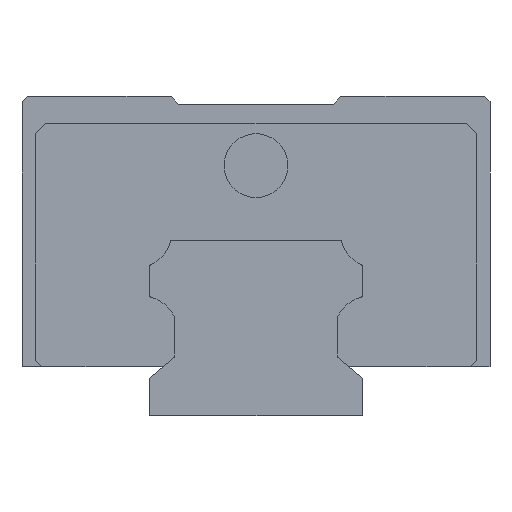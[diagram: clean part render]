
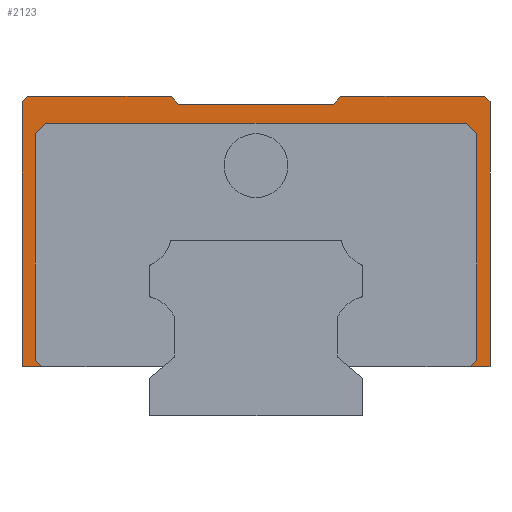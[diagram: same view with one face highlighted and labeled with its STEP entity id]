
A CAD part, left-side view. The second image highlights one B-rep face of the part: STEP entity #2123.
In plain terms, the highlighted planar face has unit normal (-1, 0, 0).
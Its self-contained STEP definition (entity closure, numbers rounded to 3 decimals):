
#42 = EDGE_CURVE ( 'NONE', #2773, #3110, #2196, .T. ) ;
#84 = VECTOR ( 'NONE', #212, 1000. ) ;
#132 = CARTESIAN_POINT ( 'NONE',  ( -27., 21.5, 30. ) ) ;
#161 = ORIENTED_EDGE ( 'NONE', *, *, #2718, .F. ) ;
#195 = DIRECTION ( 'NONE',  ( 0., 0.707, -0.707 ) ) ;
#200 = VECTOR ( 'NONE', #1598, 1000. ) ;
#212 = DIRECTION ( 'NONE',  ( 0., -0.707, 0.707 ) ) ;
#234 = ORIENTED_EDGE ( 'NONE', *, *, #2819, .F. ) ;
#236 = DIRECTION ( 'NONE',  ( 0., 0.643, -0.766 ) ) ;
#265 = VECTOR ( 'NONE', #1195, 1000. ) ;
#364 = CARTESIAN_POINT ( 'NONE',  ( -27., -20.75, 5.2 ) ) ;
#622 = CARTESIAN_POINT ( 'NONE',  ( -27., 7.963, 30. ) ) ;
#685 = CARTESIAN_POINT ( 'NONE',  ( -27., -20.75, 30. ) ) ;
#686 = EDGE_CURVE ( 'NONE', #2773, #4057, #6058, .T. ) ;
#693 = CARTESIAN_POINT ( 'NONE',  ( -27., -7.333, 29.25 ) ) ;
#804 = DIRECTION ( 'NONE',  ( 0., 0., 1. ) ) ;
#825 = LINE ( 'NONE', #3666, #1969 ) ;
#996 = EDGE_CURVE ( 'NONE', #5457, #2976, #4481, .T. ) ;
#999 = ORIENTED_EDGE ( 'NONE', *, *, #686, .T. ) ;
#1031 = DIRECTION ( 'NONE',  ( 0., 1., 0. ) ) ;
#1069 = VERTEX_POINT ( 'NONE', #2039 ) ;
#1118 = LINE ( 'NONE', #3979, #84 ) ;
#1120 = DIRECTION ( 'NONE',  ( 0., -1., 0. ) ) ;
#1143 = EDGE_CURVE ( 'NONE', #4192, #2976, #1496, .T. ) ;
#1190 = EDGE_CURVE ( 'NONE', #5284, #3688, #5358, .T. ) ;
#1195 = DIRECTION ( 'NONE',  ( 0., 0., 1. ) ) ;
#1241 = ORIENTED_EDGE ( 'NONE', *, *, #42, .F. ) ;
#1363 = VERTEX_POINT ( 'NONE', #364 ) ;
#1496 = LINE ( 'NONE', #132, #5829 ) ;
#1506 = ORIENTED_EDGE ( 'NONE', *, *, #2298, .F. ) ;
#1521 = ORIENTED_EDGE ( 'NONE', *, *, #1639, .F. ) ;
#1543 = EDGE_LOOP ( 'NONE', ( #3613, #2033, #161, #1521, #3008, #1708, #4772, #4230, #1241, #999, #1506, #6094, #2372, #6097, #1685, #5062, #5193, #234 ) ) ;
#1551 = LINE ( 'NONE', #693, #4624 ) ;
#1580 = CARTESIAN_POINT ( 'NONE',  ( -27., 19.75, 27.5 ) ) ;
#1598 = DIRECTION ( 'NONE',  ( 0., -0.707, -0.707 ) ) ;
#1639 = EDGE_CURVE ( 'NONE', #3091, #4480, #2764, .T. ) ;
#1685 = ORIENTED_EDGE ( 'NONE', *, *, #1895, .F. ) ;
#1708 = ORIENTED_EDGE ( 'NONE', *, *, #2013, .F. ) ;
#1717 = LINE ( 'NONE', #5536, #5718 ) ;
#1798 = CARTESIAN_POINT ( 'NONE',  ( -27., 20.75, 26.5 ) ) ;
#1806 = DIRECTION ( 'NONE',  ( 0., 0.707, 0.707 ) ) ;
#1858 = DIRECTION ( 'NONE',  ( 0., 1., 0. ) ) ;
#1895 = EDGE_CURVE ( 'NONE', #4192, #3688, #5356, .T. ) ;
#1969 = VECTOR ( 'NONE', #1806, 1000. ) ;
#2001 = DIRECTION ( 'NONE',  ( 0., 1., 0. ) ) ;
#2013 = EDGE_CURVE ( 'NONE', #1363, #1069, #2717, .T. ) ;
#2033 = ORIENTED_EDGE ( 'NONE', *, *, #3765, .F. ) ;
#2039 = CARTESIAN_POINT ( 'NONE',  ( -27., -20.75, 26.5 ) ) ;
#2104 = CARTESIAN_POINT ( 'NONE',  ( -27., -7.333, 29.25 ) ) ;
#2123 = ADVANCED_FACE ( 'NONE', ( #4723 ), #2391, .F. ) ;
#2130 = EDGE_CURVE ( 'NONE', #3110, #3021, #2436, .T. ) ;
#2148 = CARTESIAN_POINT ( 'NONE',  ( -27., 22., 29.5 ) ) ;
#2196 = LINE ( 'NONE', #3648, #4234 ) ;
#2242 = CARTESIAN_POINT ( 'NONE',  ( -27., -22., 4.6 ) ) ;
#2254 = VECTOR ( 'NONE', #4081, 1000. ) ;
#2298 = EDGE_CURVE ( 'NONE', #5923, #4057, #4482, .T. ) ;
#2327 = VERTEX_POINT ( 'NONE', #3081 ) ;
#2372 = ORIENTED_EDGE ( 'NONE', *, *, #4781, .T. ) ;
#2383 = VECTOR ( 'NONE', #2001, 1000. ) ;
#2391 = PLANE ( 'NONE',  #3450 ) ;
#2436 = LINE ( 'NONE', #4455, #2383 ) ;
#2491 = VECTOR ( 'NONE', #195, 1000. ) ;
#2545 = DIRECTION ( 'NONE',  ( 0., 0., -1. ) ) ;
#2658 = VECTOR ( 'NONE', #1858, 1000. ) ;
#2717 = LINE ( 'NONE', #685, #4937 ) ;
#2718 = EDGE_CURVE ( 'NONE', #4480, #2771, #4959, .T. ) ;
#2728 = CARTESIAN_POINT ( 'NONE',  ( -27., -22., 27.5 ) ) ;
#2756 = CARTESIAN_POINT ( 'NONE',  ( -27., 20.15, 4.6 ) ) ;
#2764 = LINE ( 'NONE', #2728, #2658 ) ;
#2771 = VERTEX_POINT ( 'NONE', #1798 ) ;
#2773 = VERTEX_POINT ( 'NONE', #3251 ) ;
#2797 = DIRECTION ( 'NONE',  ( 0., 1., 0. ) ) ;
#2819 = EDGE_CURVE ( 'NONE', #4938, #5457, #3746, .T. ) ;
#2898 = EDGE_CURVE ( 'NONE', #2327, #4938, #5436, .T. ) ;
#2976 = VERTEX_POINT ( 'NONE', #2148 ) ;
#2998 = LINE ( 'NONE', #4885, #5307 ) ;
#3008 = ORIENTED_EDGE ( 'NONE', *, *, #5301, .F. ) ;
#3021 = VERTEX_POINT ( 'NONE', #5618 ) ;
#3059 = CARTESIAN_POINT ( 'NONE',  ( -27., -7.963, 30. ) ) ;
#3067 = CARTESIAN_POINT ( 'NONE',  ( -27., 22., 4.6 ) ) ;
#3077 = CARTESIAN_POINT ( 'NONE',  ( -27., -21.5, 30. ) ) ;
#3081 = CARTESIAN_POINT ( 'NONE',  ( -27., 20.75, 5.2 ) ) ;
#3091 = VERTEX_POINT ( 'NONE', #5979 ) ;
#3110 = VERTEX_POINT ( 'NONE', #2242 ) ;
#3172 = CARTESIAN_POINT ( 'NONE',  ( -27., 22., 30. ) ) ;
#3193 = CARTESIAN_POINT ( 'NONE',  ( -27., 7.333, 29.25 ) ) ;
#3213 = CARTESIAN_POINT ( 'NONE',  ( -27., 9., 4.6 ) ) ;
#3214 = CARTESIAN_POINT ( 'NONE',  ( -27., 21.5, 30. ) ) ;
#3227 = CARTESIAN_POINT ( 'NONE',  ( -27., -22., 29.5 ) ) ;
#3251 = CARTESIAN_POINT ( 'NONE',  ( -27., -22., 29.5 ) ) ;
#3450 = AXIS2_PLACEMENT_3D ( 'NONE', #4273, #5124, #5157 ) ;
#3550 = VECTOR ( 'NONE', #5525, 1000. ) ;
#3613 = ORIENTED_EDGE ( 'NONE', *, *, #2898, .F. ) ;
#3648 = CARTESIAN_POINT ( 'NONE',  ( -27., -22., 28. ) ) ;
#3666 = CARTESIAN_POINT ( 'NONE',  ( -27., -19.625, 27.625 ) ) ;
#3688 = VERTEX_POINT ( 'NONE', #622 ) ;
#3746 = LINE ( 'NONE', #3213, #5031 ) ;
#3765 = EDGE_CURVE ( 'NONE', #2771, #2327, #2998, .T. ) ;
#3920 = DIRECTION ( 'NONE',  ( 0., 0.707, -0.707 ) ) ;
#3979 = CARTESIAN_POINT ( 'NONE',  ( -27., -33.775, 18.225 ) ) ;
#4037 = CARTESIAN_POINT ( 'NONE',  ( -27., 11.775, -3.775 ) ) ;
#4040 = VECTOR ( 'NONE', #5084, 1000. ) ;
#4057 = VERTEX_POINT ( 'NONE', #3077 ) ;
#4067 = CARTESIAN_POINT ( 'NONE',  ( -27., 22., 30. ) ) ;
#4081 = DIRECTION ( 'NONE',  ( 0., 0.643, 0.766 ) ) ;
#4192 = VERTEX_POINT ( 'NONE', #3214 ) ;
#4230 = ORIENTED_EDGE ( 'NONE', *, *, #2130, .F. ) ;
#4234 = VECTOR ( 'NONE', #4548, 1000. ) ;
#4273 = CARTESIAN_POINT ( 'NONE',  ( -27., -22., 30. ) ) ;
#4443 = CARTESIAN_POINT ( 'NONE',  ( -27., -2.375, 49.625 ) ) ;
#4455 = CARTESIAN_POINT ( 'NONE',  ( -27., -22., 4.6 ) ) ;
#4480 = VERTEX_POINT ( 'NONE', #1580 ) ;
#4481 = LINE ( 'NONE', #5342, #265 ) ;
#4482 = LINE ( 'NONE', #4067, #3550 ) ;
#4532 = EDGE_CURVE ( 'NONE', #3021, #1363, #1118, .T. ) ;
#4548 = DIRECTION ( 'NONE',  ( 0., 0., -1. ) ) ;
#4574 = VERTEX_POINT ( 'NONE', #2104 ) ;
#4624 = VECTOR ( 'NONE', #1031, 1000. ) ;
#4723 = FACE_OUTER_BOUND ( 'NONE', #1543, .T. ) ;
#4772 = ORIENTED_EDGE ( 'NONE', *, *, #4532, .F. ) ;
#4781 = EDGE_CURVE ( 'NONE', #4574, #5284, #1551, .T. ) ;
#4833 = VECTOR ( 'NONE', #1120, 1000. ) ;
#4885 = CARTESIAN_POINT ( 'NONE',  ( -27., 20.75, 30. ) ) ;
#4937 = VECTOR ( 'NONE', #804, 1000. ) ;
#4938 = VERTEX_POINT ( 'NONE', #2756 ) ;
#4959 = LINE ( 'NONE', #4443, #2491 ) ;
#5031 = VECTOR ( 'NONE', #2797, 1000. ) ;
#5062 = ORIENTED_EDGE ( 'NONE', *, *, #1143, .T. ) ;
#5084 = DIRECTION ( 'NONE',  ( 0., 0.707, 0.707 ) ) ;
#5124 = DIRECTION ( 'NONE',  ( 1., 0., 0. ) ) ;
#5157 = DIRECTION ( 'NONE',  ( 0., 1., 0. ) ) ;
#5193 = ORIENTED_EDGE ( 'NONE', *, *, #996, .F. ) ;
#5284 = VERTEX_POINT ( 'NONE', #3193 ) ;
#5301 = EDGE_CURVE ( 'NONE', #1069, #3091, #825, .T. ) ;
#5307 = VECTOR ( 'NONE', #2545, 1000. ) ;
#5342 = CARTESIAN_POINT ( 'NONE',  ( -27., 22., 4.6 ) ) ;
#5356 = LINE ( 'NONE', #3172, #4833 ) ;
#5358 = LINE ( 'NONE', #5448, #2254 ) ;
#5436 = LINE ( 'NONE', #4037, #200 ) ;
#5448 = CARTESIAN_POINT ( 'NONE',  ( -27., 7.333, 29.25 ) ) ;
#5457 = VERTEX_POINT ( 'NONE', #3067 ) ;
#5525 = DIRECTION ( 'NONE',  ( 0., -1., 0. ) ) ;
#5536 = CARTESIAN_POINT ( 'NONE',  ( -27., -7.963, 30. ) ) ;
#5618 = CARTESIAN_POINT ( 'NONE',  ( -27., -20.15, 4.6 ) ) ;
#5718 = VECTOR ( 'NONE', #236, 1000. ) ;
#5829 = VECTOR ( 'NONE', #3920, 1000. ) ;
#5923 = VERTEX_POINT ( 'NONE', #3059 ) ;
#5963 = EDGE_CURVE ( 'NONE', #5923, #4574, #1717, .T. ) ;
#5979 = CARTESIAN_POINT ( 'NONE',  ( -27., -19.75, 27.5 ) ) ;
#6058 = LINE ( 'NONE', #3227, #4040 ) ;
#6094 = ORIENTED_EDGE ( 'NONE', *, *, #5963, .T. ) ;
#6097 = ORIENTED_EDGE ( 'NONE', *, *, #1190, .T. ) ;
